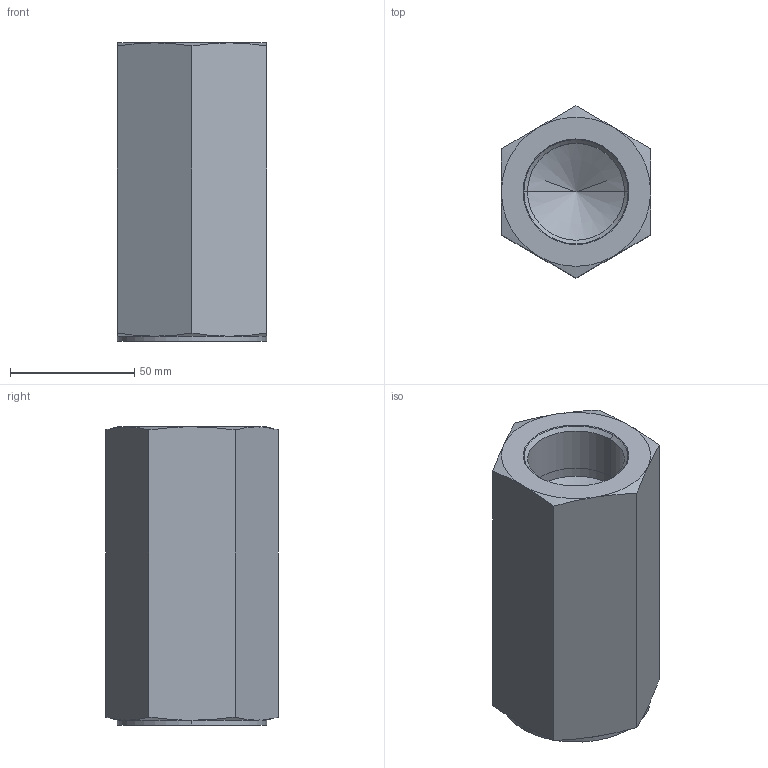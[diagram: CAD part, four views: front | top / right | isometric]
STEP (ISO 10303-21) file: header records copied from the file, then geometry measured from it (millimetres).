
FILE_DESCRIPTION((''),'2;1');
FILE_NAME('VJ3_25_G1','2021-06-02T',('l.soukupova'),(''),'PRO/ENGINEER BY PARAMETRIC TECHNOLOGY CORPORATION, 2015440','PRO/ENGINEER BY PARAMETRIC TECHNOLOGY CORPORATION, 2015440','');
FILE_SCHEMA(('AUTOMOTIVE_DESIGN { 1 0 10303 214 1 1 1 1 }'));
Length unit declared in the file: millimetre
Products named in the file (1): VJ3_25_G1
Bounding box: 60 x 69.28 x 120 mm (x, y, z)
Volume: 306632 mm3; surface area: 42547.5 mm2
Topology: 1 solids, 3 shells, 40 faces, 114 edges, 87 vertices
Faces by surface type: cone 20, plane 10, cylinder 10
Entity records: 2042 total; most frequent: CARTESIAN_POINT 597, DIRECTION 212, ORIENTED_EDGE 164, PRESENTATION_STYLE_ASSIGNMENT 122, STYLED_ITEM 122, CURVE_STYLE 119, EDGE_CURVE 86, AXIS2_PLACEMENT_3D 83
